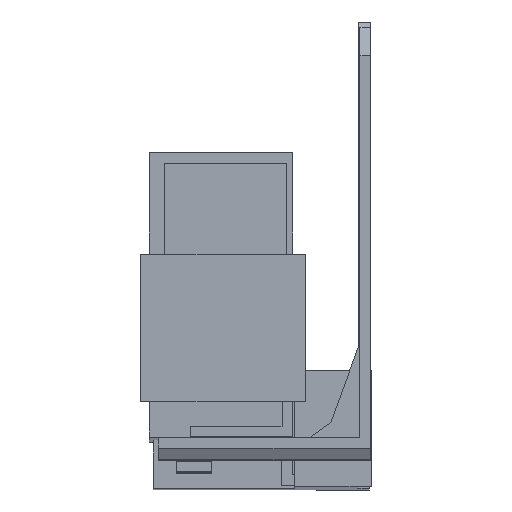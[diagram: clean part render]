
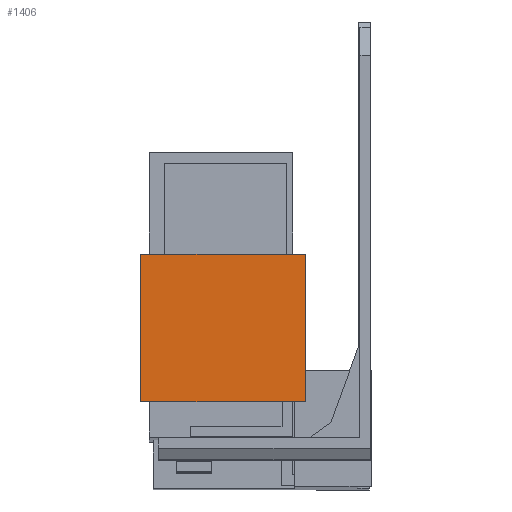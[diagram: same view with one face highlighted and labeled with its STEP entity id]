
A CAD part, front view. The second image highlights one B-rep face of the part: STEP entity #1406.
In plain terms, the highlighted planar face has unit normal (0, -1, 0.003).
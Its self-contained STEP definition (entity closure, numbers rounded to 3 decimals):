
#54 = EDGE_CURVE ( 'NONE', #1989, #1942, #3573, .T. ) ;
#248 = EDGE_CURVE ( 'NONE', #1941, #1942, #1553, .T. ) ;
#298 = EDGE_CURVE ( 'NONE', #2061, #1941, #1534, .T. ) ;
#385 = AXIS2_PLACEMENT_3D ( 'NONE', #3385, #3391, #3392 ) ;
#471 = EDGE_LOOP ( 'NONE', ( #4716, #4719, #4720, #4721 ) ) ;
#734 = LINE ( 'NONE', #2418, #750 ) ;
#750 = VECTOR ( 'NONE', #2419, 1000. ) ;
#1093 = FACE_OUTER_BOUND ( 'NONE', #471, .T. ) ;
#1406 = ADVANCED_FACE ( 'NONE', ( #1093 ), #3382, .T. ) ;
#1493 = VECTOR ( 'NONE', #2867, 1000. ) ;
#1534 = LINE ( 'NONE', #2866, #1493 ) ;
#1552 = VECTOR ( 'NONE', #2801, 1000. ) ;
#1553 = LINE ( 'NONE', #2800, #1552 ) ;
#1877 = DIRECTION ( 'NONE',  ( -1., 0., 0. ) ) ;
#1878 = CARTESIAN_POINT ( 'NONE',  ( -9.3, -28.952, -19.322 ) ) ;
#1941 = VERTEX_POINT ( 'NONE', #2140 ) ;
#1942 = VERTEX_POINT ( 'NONE', #2141 ) ;
#1989 = VERTEX_POINT ( 'NONE', #2177 ) ;
#2061 = VERTEX_POINT ( 'NONE', #2246 ) ;
#2140 = CARTESIAN_POINT ( 'NONE',  ( -32.7, -29.009, -40.322 ) ) ;
#2141 = CARTESIAN_POINT ( 'NONE',  ( -32.7, -28.952, -19.322 ) ) ;
#2177 = CARTESIAN_POINT ( 'NONE',  ( -9.3, -28.952, -19.322 ) ) ;
#2246 = CARTESIAN_POINT ( 'NONE',  ( -9.3, -29.009, -40.322 ) ) ;
#2418 = CARTESIAN_POINT ( 'NONE',  ( -9.3, -29.009, -40.322 ) ) ;
#2419 = DIRECTION ( 'NONE',  ( 0., 0.003, 1. ) ) ;
#2800 = CARTESIAN_POINT ( 'NONE',  ( -32.7, -29.009, -40.322 ) ) ;
#2801 = DIRECTION ( 'NONE',  ( 0., 0.003, 1. ) ) ;
#2866 = CARTESIAN_POINT ( 'NONE',  ( -9.3, -29.009, -40.322 ) ) ;
#2867 = DIRECTION ( 'NONE',  ( -1., 0., 0. ) ) ;
#3382 = PLANE ( 'NONE',  #385 ) ;
#3385 = CARTESIAN_POINT ( 'NONE',  ( -9.3, -29.009, -40.322 ) ) ;
#3391 = DIRECTION ( 'NONE',  ( 0., -1., 0.003 ) ) ;
#3392 = DIRECTION ( 'NONE',  ( 1., 0., 0. ) ) ;
#3571 = VECTOR ( 'NONE', #1877, 1000. ) ;
#3573 = LINE ( 'NONE', #1878, #3571 ) ;
#4716 = ORIENTED_EDGE ( 'NONE', *, *, #54, .T. ) ;
#4719 = ORIENTED_EDGE ( 'NONE', *, *, #248, .F. ) ;
#4720 = ORIENTED_EDGE ( 'NONE', *, *, #298, .F. ) ;
#4721 = ORIENTED_EDGE ( 'NONE', *, *, #4843, .T. ) ;
#4843 = EDGE_CURVE ( 'NONE', #2061, #1989, #734, .T. ) ;
